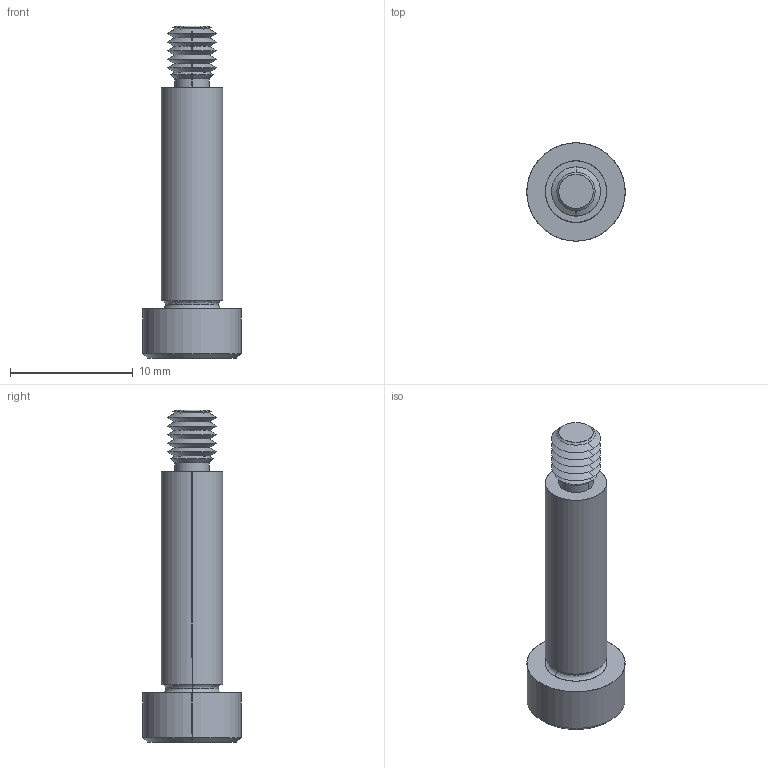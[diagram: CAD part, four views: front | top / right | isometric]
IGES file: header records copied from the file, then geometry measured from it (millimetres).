
Start section: SolidWorks IGES file using analytic representation for surfaces
Global section: file name: C:\Users\IanO\Documents\Temp Folder\GENERAL\SCREW REVISION\P0130_v2\P0130.T5_v2_20220106_IGES\P0130.050-018-T5.igs; native system: SolidWorks 2019; preprocessor: SolidWorks 2019; author: IanO; date: 220106.221621; units: millimetre
Bounding box: 8 x 8 x 27 mm (x, y, z)
Surface area: 598.7 mm2 (no closed solid volume)
Topology: 0 solids, 0 shells, 64 faces, 504 edges, 502 vertices
Faces by surface type: revolution 44, bspline 20
